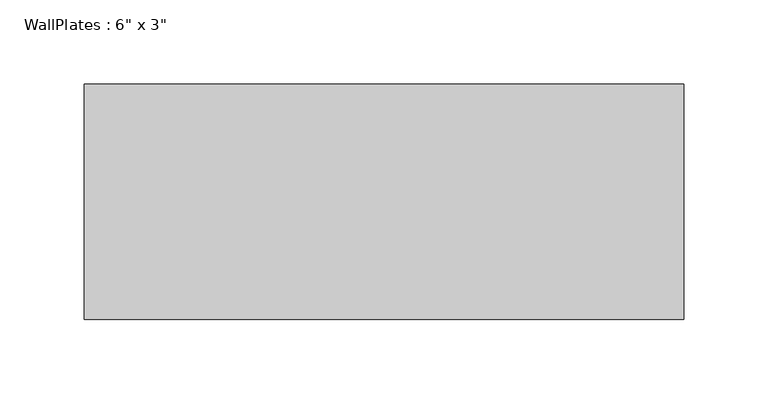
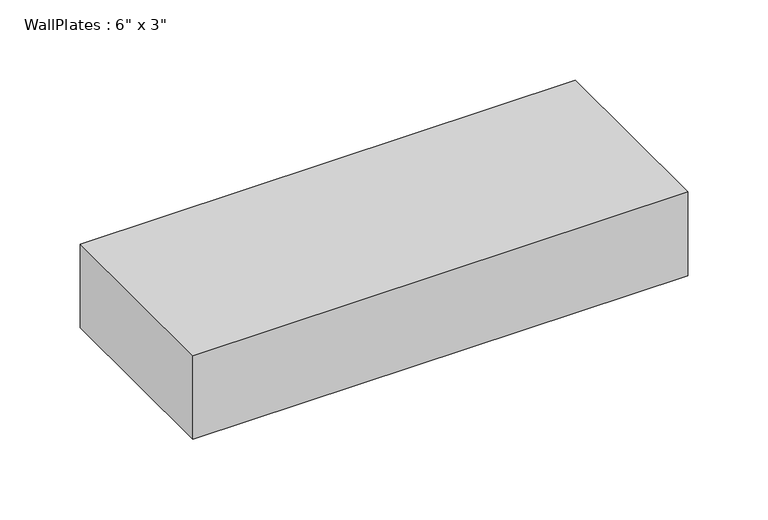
"""IFC4 building model written with IfcOpenShell, lengths in millimetres: beam geometry."""

from ifc_helpers import new_model, si_unit, frame, origin, place, context, project, spatial, polyline, outline, extrude, source, transform, mapped, element, save


def beam_b6a04b3d(model_context):
    return source(origin(), model_context, "Body", "SweptSolid", [
        extrude(outline(polyline([(-177.7495733, -69.85), (-177.7495733, 69.85), (177.7495733, 69.85), (177.7495733, -69.85), (-177.7495733, -69.85)])), frame((0.0, 0.0, -31.75), z_axis=(0.0, 0.0, 1.0), x_axis=(1.0, 0.0, 0.0)), (0.0, 0.0, 1.0), 63.5),
    ])


if __name__ == "__main__":
    model = new_model("IFC4")
    model_context = context("Model", 3, world=origin())
    ifc_project = project(units=[si_unit("LENGTHUNIT", "METRE", prefix="MILLI")], contexts=[model_context])
    site = spatial("IfcSite", under=ifc_project)
    building = spatial("IfcBuilding", under=site)
    placement = place(None, origin())
    beam_shape = beam_b6a04b3d(model_context)
    element("IfcBeam", 1, ObjectType="WallPlates : 6\" x 3\"", at=placement, inside=building, context=model_context, shape_type="MappedRepresentation", body=[
        mapped(beam_shape, transform((0.0, 0.0, 0.0), x_axis=(1.0, 0.0, 0.0), y_axis=(0.0, 1.0, 0.0), z_axis=(0.0, 0.0, 1.0))),
    ])
    save(model, "model.ifc")
